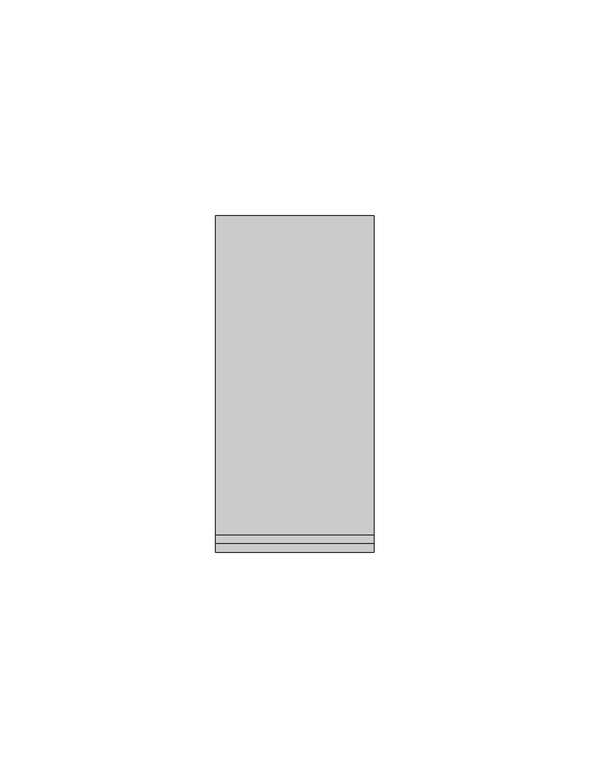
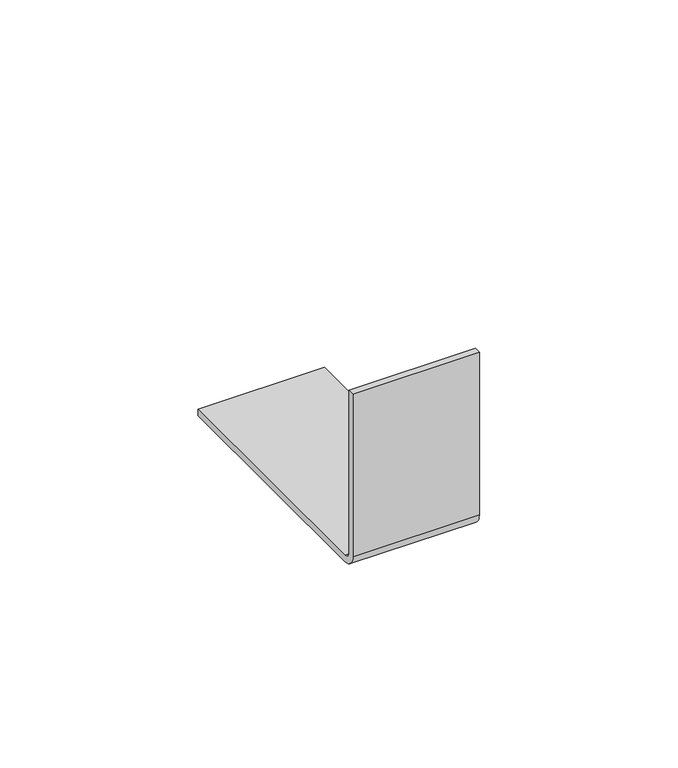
"""IFC4 building model written with IfcOpenShell, lengths in millimetres: proxy geometry, durlum_U1042 : durlum_U1042."""

from ifc_helpers import new_model, si_unit, point, frame, frame_2d, origin, place, context, project, spatial, polyline, circle_curve, trimmed, segment, composite_curve, outline, extrude, source, transform, mapped, element, save


def generic_models_28f6a95c(model_context):
    return source(origin(), model_context, "Body", "SweptSolid", [
        extrude(outline(composite_curve([segment(polyline([(0.0, 54.0), (2.0, 54.0), (2.0, 4.0)]), True, "CONTINUOUS"), segment(trimmed(circle_curve(frame_2d((4.0, 4.0)), 2.0), [point((2.0, 4.0))], [point((4.0, 2.0))], True, "CARTESIAN"), True, "CONTINUOUS"), segment(polyline([(4.0, 2.0), (78.0, 2.0), (78.0, 0.0), (4.0, 0.0)]), True, "CONTINUOUS"), segment(trimmed(circle_curve(frame_2d((4.0, 4.0)), 4.0), [point((4.0, 0.0))], [point((0.0, 4.0))], False, "CARTESIAN"), True, "CONTINUOUS"), segment(polyline([(0.0, 4.0), (0.0, 54.0)]), True, "CONTINUOUS")], self_intersect=False)), frame((-18.4, 0.0, 0.0), z_axis=(1.0, 0.0, 0.0), x_axis=(0.0, 1.0, 0.0)), (0.0, 0.0, 1.0), 36.8),
    ])


if __name__ == "__main__":
    model = new_model("IFC4")
    model_context = context("Model", 3, world=origin())
    ifc_project = project(units=[si_unit("LENGTHUNIT", "METRE", prefix="MILLI")], contexts=[model_context])
    site = spatial("IfcSite", under=ifc_project)
    building = spatial("IfcBuilding", under=site)
    placement = place(None, origin())
    generic_models_shape = generic_models_28f6a95c(model_context)
    element("IfcBuildingElementProxy", 1, Name="durlum_U1042 : durlum_U1042", ObjectType="durlum_U1042 : durlum_U1042", at=placement, inside=building, context=model_context, shape_type="MappedRepresentation", body=[
        mapped(generic_models_shape, transform((0.0, 0.0, 0.0), x_axis=(1.0, 0.0, 0.0), y_axis=(0.0, 1.0, 0.0), z_axis=(0.0, 0.0, 1.0))),
    ])
    save(model, "model.ifc")
